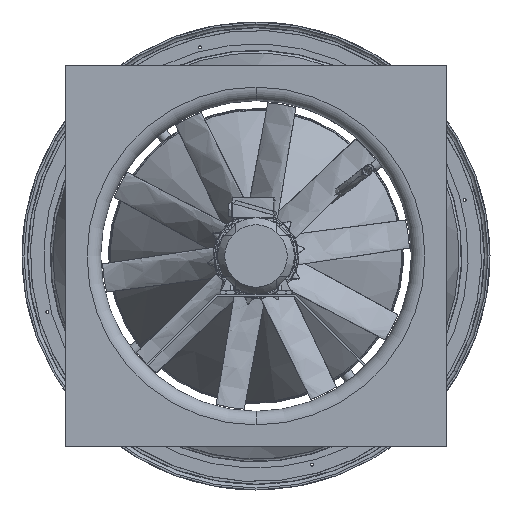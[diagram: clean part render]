
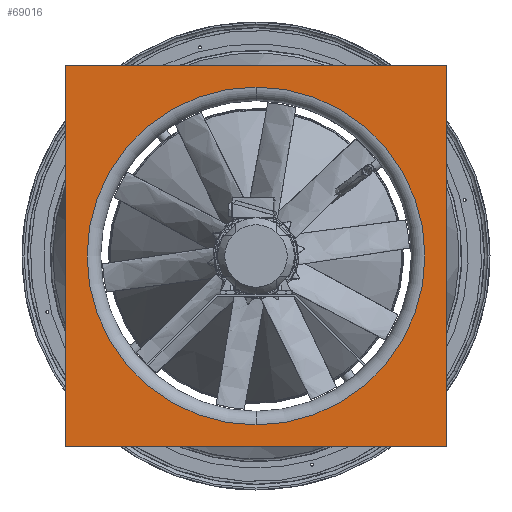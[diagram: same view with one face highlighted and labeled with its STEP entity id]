
A CAD part, front view. The second image highlights one B-rep face of the part: STEP entity #69016.
In plain terms, the highlighted planar face has unit normal (0, -1, 0).
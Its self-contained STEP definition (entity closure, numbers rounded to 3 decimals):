
#457 = VECTOR ( 'NONE', #72820, 1000. ) ;
#3014 = PLANE ( 'NONE',  #35053 ) ;
#3068 = AXIS2_PLACEMENT_3D ( 'NONE', #36414, #57506, #72391 ) ;
#5031 = EDGE_LOOP ( 'NONE', ( #63220, #79636 ) ) ;
#6050 = VERTEX_POINT ( 'NONE', #39351 ) ;
#7320 = LINE ( 'NONE', #43521, #457 ) ;
#7831 = VECTOR ( 'NONE', #87592, 1000. ) ;
#9257 = LINE ( 'NONE', #33757, #48103 ) ;
#9261 = VECTOR ( 'NONE', #47858, 1000. ) ;
#9882 = CARTESIAN_POINT ( 'NONE',  ( 0., 38.5, 396. ) ) ;
#14591 = EDGE_LOOP ( 'NONE', ( #33191, #50128, #63810, #42932 ) ) ;
#18614 = EDGE_CURVE ( 'NONE', #68681, #51598, #93457, .T. ) ;
#21255 = CARTESIAN_POINT ( 'NONE',  ( 0., 38.5, -352. ) ) ;
#22420 = CARTESIAN_POINT ( 'NONE',  ( -396., 38.5, -396. ) ) ;
#23535 = FACE_OUTER_BOUND ( 'NONE', #14591, .T. ) ;
#26125 = DIRECTION ( 'NONE',  ( -1., 0., 0. ) ) ;
#26418 = LINE ( 'NONE', #9882, #9261 ) ;
#30978 = EDGE_CURVE ( 'NONE', #6050, #71323, #81407, .T. ) ;
#32089 = VERTEX_POINT ( 'NONE', #22420 ) ;
#33191 = ORIENTED_EDGE ( 'NONE', *, *, #52930, .F. ) ;
#33757 = CARTESIAN_POINT ( 'NONE',  ( 0., 38.5, -396. ) ) ;
#35053 = AXIS2_PLACEMENT_3D ( 'NONE', #83420, #82503, #54735 ) ;
#36414 = CARTESIAN_POINT ( 'NONE',  ( 0., 38.5, 0. ) ) ;
#37455 = EDGE_CURVE ( 'NONE', #71323, #6050, #38374, .T. ) ;
#37541 = CARTESIAN_POINT ( 'NONE',  ( 396., 38.5, 0. ) ) ;
#38374 = CIRCLE ( 'NONE', #3068, 352. ) ;
#39351 = CARTESIAN_POINT ( 'NONE',  ( 0., 38.5, 352. ) ) ;
#42932 = ORIENTED_EDGE ( 'NONE', *, *, #76894, .F. ) ;
#43521 = CARTESIAN_POINT ( 'NONE',  ( -396., 38.5, 0. ) ) ;
#46601 = CARTESIAN_POINT ( 'NONE',  ( 396., 38.5, -396. ) ) ;
#47858 = DIRECTION ( 'NONE',  ( 1., 0., 0. ) ) ;
#48103 = VECTOR ( 'NONE', #26125, 1000. ) ;
#50128 = ORIENTED_EDGE ( 'NONE', *, *, #82831, .F. ) ;
#50755 = VERTEX_POINT ( 'NONE', #69436 ) ;
#51230 = DIRECTION ( 'NONE',  ( 0., -1., 0. ) ) ;
#51598 = VERTEX_POINT ( 'NONE', #46601 ) ;
#52930 = EDGE_CURVE ( 'NONE', #32089, #50755, #7320, .T. ) ;
#54735 = DIRECTION ( 'NONE',  ( 0., 0., -1. ) ) ;
#57506 = DIRECTION ( 'NONE',  ( 0., -1., 0. ) ) ;
#63220 = ORIENTED_EDGE ( 'NONE', *, *, #37455, .F. ) ;
#63810 = ORIENTED_EDGE ( 'NONE', *, *, #18614, .F. ) ;
#65749 = FACE_BOUND ( 'NONE', #5031, .T. ) ;
#68681 = VERTEX_POINT ( 'NONE', #69768 ) ;
#69016 = ADVANCED_FACE ( 'NONE', ( #65749, #23535 ), #3014, .T. ) ;
#69436 = CARTESIAN_POINT ( 'NONE',  ( -396., 38.5, 396. ) ) ;
#69768 = CARTESIAN_POINT ( 'NONE',  ( 396., 38.5, 396. ) ) ;
#71323 = VERTEX_POINT ( 'NONE', #21255 ) ;
#72391 = DIRECTION ( 'NONE',  ( 0., 0., -1. ) ) ;
#72820 = DIRECTION ( 'NONE',  ( 0., 0., 1. ) ) ;
#72883 = CARTESIAN_POINT ( 'NONE',  ( 0., 38.5, 0. ) ) ;
#76894 = EDGE_CURVE ( 'NONE', #50755, #68681, #26418, .T. ) ;
#79636 = ORIENTED_EDGE ( 'NONE', *, *, #30978, .F. ) ;
#80886 = DIRECTION ( 'NONE',  ( 0., 0., -1. ) ) ;
#81407 = CIRCLE ( 'NONE', #87096, 352. ) ;
#82503 = DIRECTION ( 'NONE',  ( 0., -1., 0. ) ) ;
#82831 = EDGE_CURVE ( 'NONE', #51598, #32089, #9257, .T. ) ;
#83420 = CARTESIAN_POINT ( 'NONE',  ( 0., 38.5, 0. ) ) ;
#87096 = AXIS2_PLACEMENT_3D ( 'NONE', #72883, #51230, #80886 ) ;
#87592 = DIRECTION ( 'NONE',  ( 0., 0., -1. ) ) ;
#93457 = LINE ( 'NONE', #37541, #7831 ) ;
